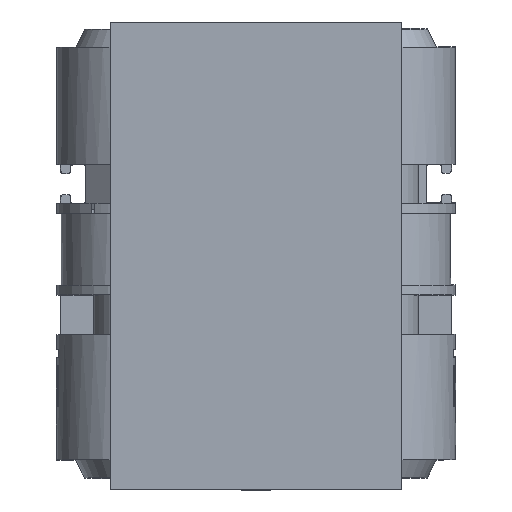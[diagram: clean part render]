
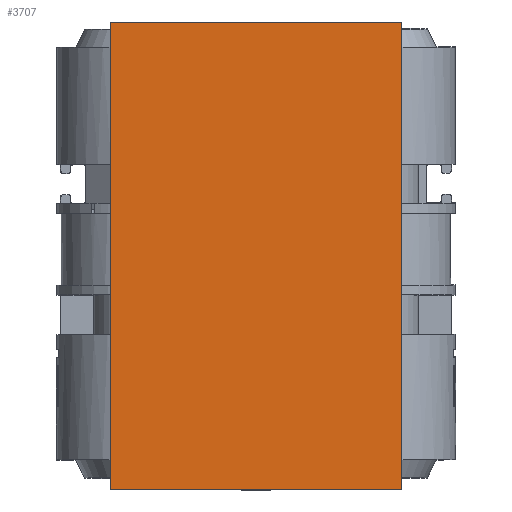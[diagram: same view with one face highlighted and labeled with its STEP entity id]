
A CAD part, top view. The second image highlights one B-rep face of the part: STEP entity #3707.
In plain terms, the highlighted planar face has unit normal (0, 0, 1).
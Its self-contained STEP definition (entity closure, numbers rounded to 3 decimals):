
#191=PLANE('',#4055);
#396=FACE_OUTER_BOUND('',#601,.T.);
#601=EDGE_LOOP('',(#3389,#3390,#3391,#3392));
#973=LINE('',#6165,#1372);
#974=LINE('',#6167,#1373);
#975=LINE('',#6169,#1374);
#976=LINE('',#6170,#1375);
#1372=VECTOR('',#5068,10.);
#1373=VECTOR('',#5069,10.);
#1374=VECTOR('',#5070,10.);
#1375=VECTOR('',#5071,10.);
#1860=VERTEX_POINT('',#6163);
#1861=VERTEX_POINT('',#6164);
#1862=VERTEX_POINT('',#6166);
#1863=VERTEX_POINT('',#6168);
#2375=EDGE_CURVE('',#1860,#1861,#973,.T.);
#2376=EDGE_CURVE('',#1861,#1862,#974,.T.);
#2377=EDGE_CURVE('',#1863,#1862,#975,.T.);
#2378=EDGE_CURVE('',#1860,#1863,#976,.T.);
#3389=ORIENTED_EDGE('',*,*,#2375,.T.);
#3390=ORIENTED_EDGE('',*,*,#2376,.T.);
#3391=ORIENTED_EDGE('',*,*,#2377,.F.);
#3392=ORIENTED_EDGE('',*,*,#2378,.F.);
#3707=ADVANCED_FACE('',(#396),#191,.T.);
#4055=AXIS2_PLACEMENT_3D('',#6162,#5066,#5067);
#5066=DIRECTION('center_axis',(0.,0.,1.));
#5067=DIRECTION('ref_axis',(1.,0.,0.));
#5068=DIRECTION('',(1.,0.,0.));
#5069=DIRECTION('',(0.,1.,0.));
#5070=DIRECTION('',(1.,0.,0.));
#5071=DIRECTION('',(0.,1.,0.));
#6162=CARTESIAN_POINT('Origin',(-7.5,0.,12.25));
#6163=CARTESIAN_POINT('',(-7.5,0.,12.25));
#6164=CARTESIAN_POINT('',(7.5,0.,12.25));
#6165=CARTESIAN_POINT('',(-7.5,0.,12.25));
#6166=CARTESIAN_POINT('',(7.5,24.,12.25));
#6167=CARTESIAN_POINT('',(7.5,0.,12.25));
#6168=CARTESIAN_POINT('',(-7.5,24.,12.25));
#6169=CARTESIAN_POINT('',(-7.5,24.,12.25));
#6170=CARTESIAN_POINT('',(-7.5,0.,12.25));
